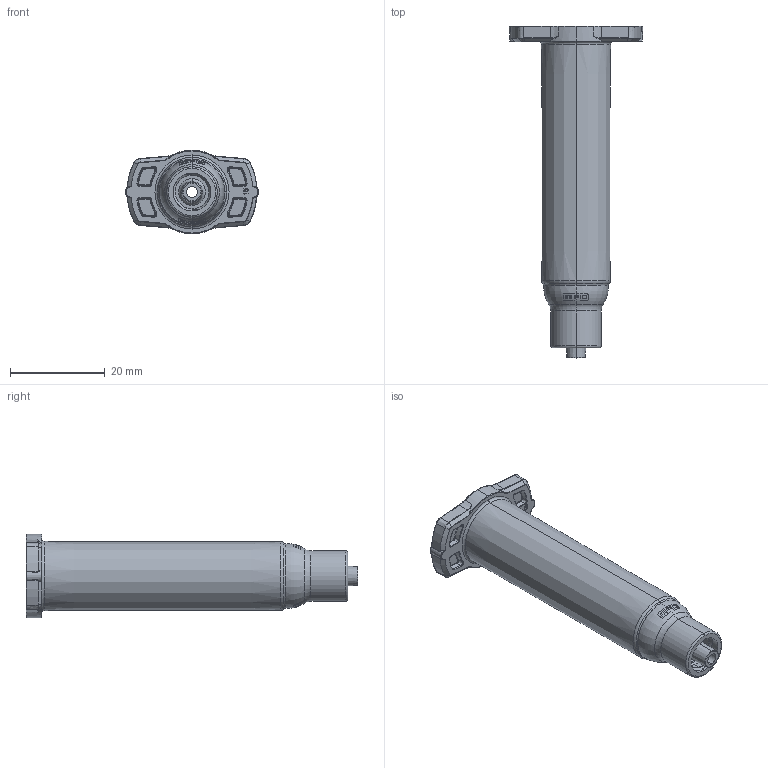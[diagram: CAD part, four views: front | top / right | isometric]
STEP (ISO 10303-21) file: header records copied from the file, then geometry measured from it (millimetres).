
FILE_DESCRIPTION (( 'STEP AP214' ), '1' );
FILE_NAME ('NORDSONEFD-7012011 BARREL O 5CC AM.STEP', '2019-05-29T01:14:36', ( '' ), ( '' ), 'SwSTEP 2.0', 'SolidWorks 2019', '' );
FILE_SCHEMA (( 'AUTOMOTIVE_DESIGN' ));
Length unit declared in the file: inch
Products named in the file (1): NORDSONEFD-7012011 BARREL O 5CC AM
Bounding box: 28.08 x 69.93 x 17.65 mm (x, y, z)
Volume: 3462.8 mm3; surface area: 6407.6 mm2
Topology: 1 solids, 1 shells, 464 faces, 1182 edges, 734 vertices
Faces by surface type: bspline 193, plane 110, torus 81, cylinder 49, cone 31
Entity records: 19483 total; most frequent: CARTESIAN_POINT 9909, ORIENTED_EDGE 2364, DIRECTION 1422, EDGE_CURVE 1182, VERTEX_POINT 734, B_SPLINE_CURVE_WITH_KNOTS 562, AXIS2_PLACEMENT_3D 556, EDGE_LOOP 480
